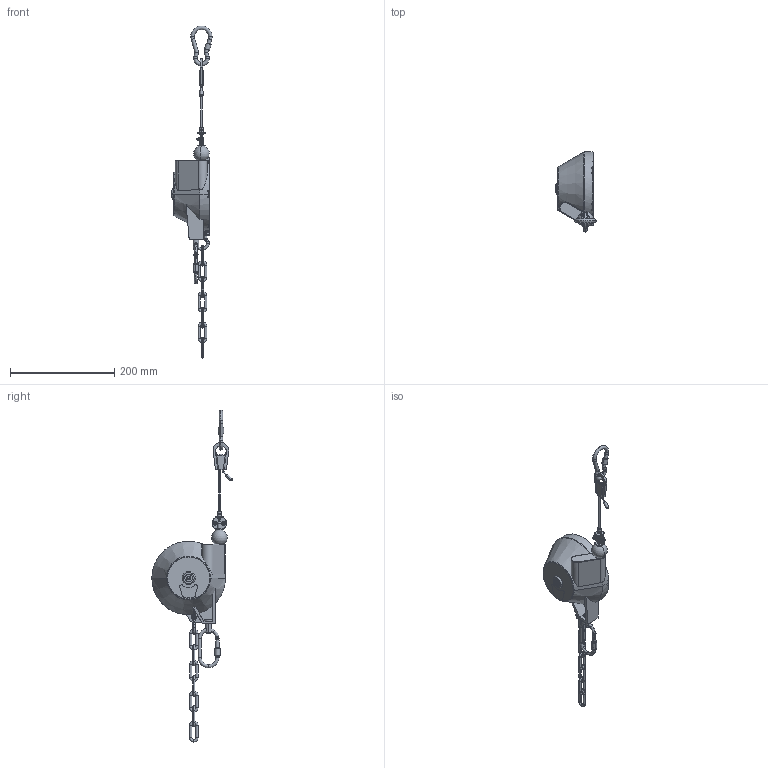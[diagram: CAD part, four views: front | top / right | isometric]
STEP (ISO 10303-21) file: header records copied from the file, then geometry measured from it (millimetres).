
FILE_DESCRIPTION((''),'2;1');
FILE_NAME('6158130780','2017-06-30T',('greextsd'),(''),'CREO PARAMETRIC BY PTC INC, 2017020','CREO PARAMETRIC BY PTC INC, 2017020','');
FILE_SCHEMA(('AUTOMOTIVE_DESIGN { 1 0 10303 214 1 1 1 1 }'));
Length unit declared in the file: millimetre
Products named in the file (1): 6158130780
Bounding box: 77.1 x 153.87 x 637.12 mm (x, y, z)
Volume: 16522.2 mm3; surface area: 94631.3 mm2
Topology: 12 solids, 15 shells, 1237 faces, 3518 edges, 2250 vertices
Faces by surface type: plane 451, cylinder 315, cone 235, torus 182, sphere 30, bspline 24
Entity records: 60778 total; most frequent: CARTESIAN_POINT 13879, ORIENTED_EDGE 6944, DIRECTION 6322, PRESENTATION_STYLE_ASSIGNMENT 4158, STYLED_ITEM 3502, CURVE_STYLE 3487, EDGE_CURVE 3487, AXIS2_PLACEMENT_3D 2596
